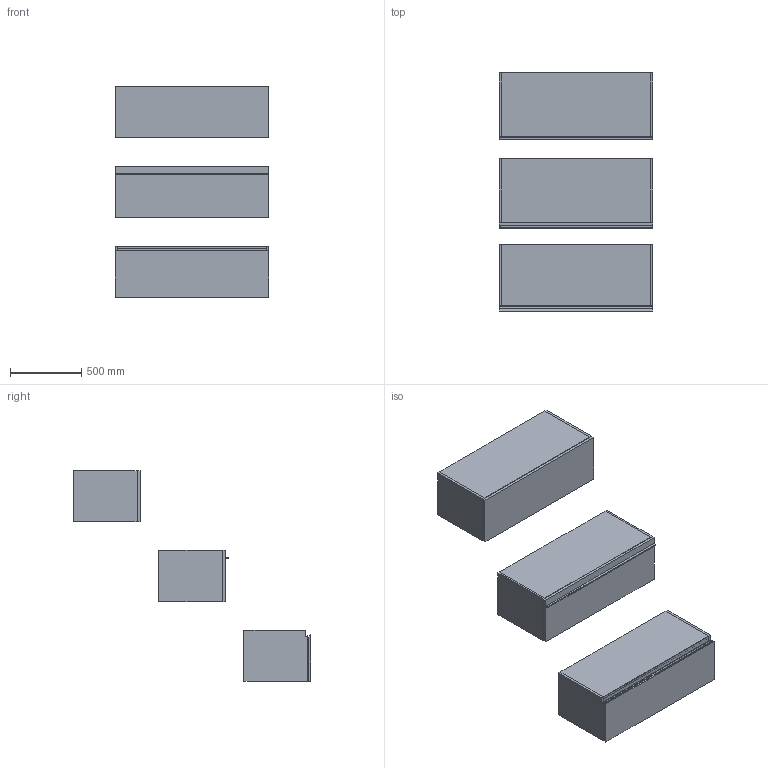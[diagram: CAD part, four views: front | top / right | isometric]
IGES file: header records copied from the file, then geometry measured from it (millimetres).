
Start section: Data from Parasolid IGES Translator 19.0.9, Copyright(c) 2006 Siemens PL M Software. All Rights Reserved.
Global section: file name: noorth-SI-H 36 D 47 W 108_8353.igs; native system: By Siemens PLM Incorporated; preprocessor: XPlus GENERIC/IGES 19.0.9; author: Noname; organization: Noname; date: 20200601.093639; units: metre
Bounding box: 1080.01 x 1669.1 x 1480 mm (x, y, z)
Volume: 84770527.7 mm3; surface area: 12662088.9 mm2
Topology: 20 solids, 20 shells, 178 faces, 382 edges, 234 vertices
Faces by surface type: plane 134, extrusion 16, bspline 16, cylinder 12
